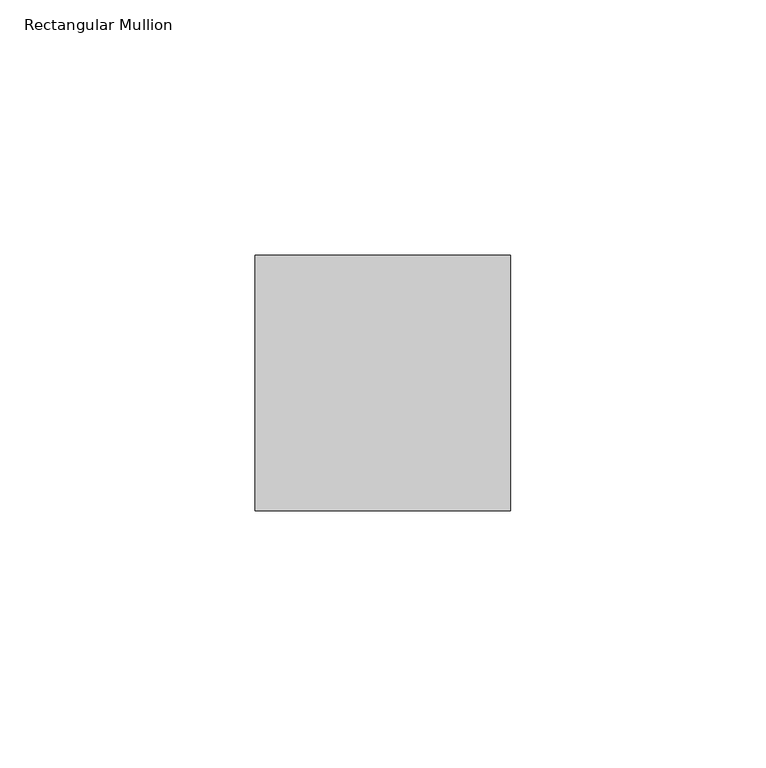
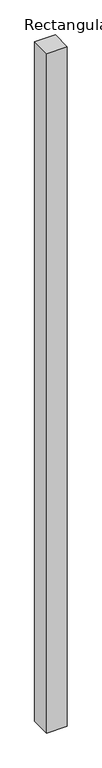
"""IFC4 building model written with IfcOpenShell, lengths in millimetres: member geometry, Rectangular Mullion : Mullion_Curtain Wall_Generic Showcase_50x50mm."""

from ifc_helpers import new_model, si_unit, frame, origin, place, context, project, spatial, polyline, outline, extrude, source, transform, mapped, element, save


def rectangular_mullion_539ee6f9(model_context):
    return source(origin(), model_context, "Body", "SweptSolid", [
        extrude(outline(polyline([(25.0, 50.0), (25.0, 0.0), (-25.0, 0.0), (-25.0, 50.0), (25.0, 50.0)])), frame((0.0, 0.0, -1738.479996), z_axis=(0.0, 0.0, 1.0), x_axis=(1.0, 0.0, 0.0)), (0.0, 0.0, 1.0), 1738.479996),
    ])


if __name__ == "__main__":
    model = new_model("IFC4")
    model_context = context("Model", 3, world=origin())
    ifc_project = project(units=[si_unit("LENGTHUNIT", "METRE", prefix="MILLI")], contexts=[model_context])
    site = spatial("IfcSite", under=ifc_project)
    building = spatial("IfcBuilding", under=site)
    placement = place(None, origin())
    rectangular_mullion_shape = rectangular_mullion_539ee6f9(model_context)
    element("IfcMember", 1, ObjectType="Rectangular Mullion : Mullion_Curtain Wall_Generic Showcase_50x50mm", at=placement, inside=building, context=model_context, shape_type="MappedRepresentation", body=[
        mapped(rectangular_mullion_shape, transform((0.0, 0.0, 0.0), x_axis=(1.0, 0.0, 0.0), y_axis=(0.0, 1.0, 0.0), z_axis=(0.0, 0.0, 1.0))),
    ])
    save(model, "model.ifc")
